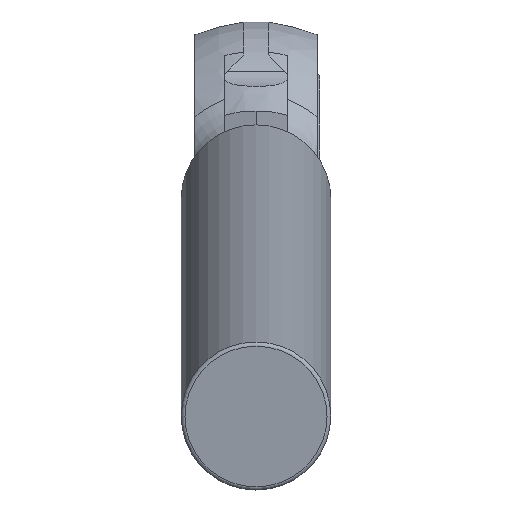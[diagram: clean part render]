
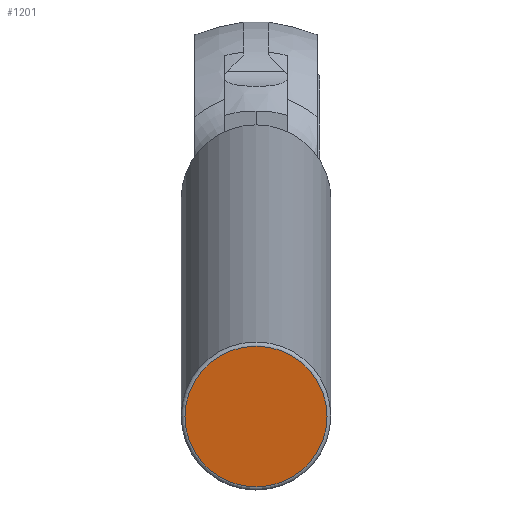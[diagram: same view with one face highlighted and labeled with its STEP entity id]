
A CAD part, left-side view. The second image highlights one B-rep face of the part: STEP entity #1201.
In plain terms, the highlighted planar face has unit normal (-0.99, 0, -0.144).
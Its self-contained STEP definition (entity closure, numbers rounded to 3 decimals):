
#13 = DIRECTION ( 'NONE',  ( -0.144, 0., 0.99 ) ) ;
#132 = FACE_OUTER_BOUND ( 'NONE', #363, .T. ) ;
#163 = EDGE_CURVE ( 'NONE', #202, #202, #773, .T. ) ;
#202 = VERTEX_POINT ( 'NONE', #1212 ) ;
#363 = EDGE_LOOP ( 'NONE', ( #1017 ) ) ;
#406 = AXIS2_PLACEMENT_3D ( 'NONE', #1115, #1149, #13 ) ;
#492 = PLANE ( 'NONE',  #406 ) ;
#773 = CIRCLE ( 'NONE', #1429, 28.5 ) ;
#926 = DIRECTION ( 'NONE',  ( -0.144, 0., 0.99 ) ) ;
#1017 = ORIENTED_EDGE ( 'NONE', *, *, #163, .T. ) ;
#1115 = CARTESIAN_POINT ( 'NONE',  ( -558.482, -194., 647.458 ) ) ;
#1149 = DIRECTION ( 'NONE',  ( -0.99, 0., -0.144 ) ) ;
#1194 = CARTESIAN_POINT ( 'NONE',  ( -558.482, -194., 647.458 ) ) ;
#1201 = ADVANCED_FACE ( 'NONE', ( #132 ), #492, .T. ) ;
#1212 = CARTESIAN_POINT ( 'NONE',  ( -562.597, -194., 675.659 ) ) ;
#1429 = AXIS2_PLACEMENT_3D ( 'NONE', #1194, #1546, #926 ) ;
#1546 = DIRECTION ( 'NONE',  ( -0.99, 0., -0.144 ) ) ;
